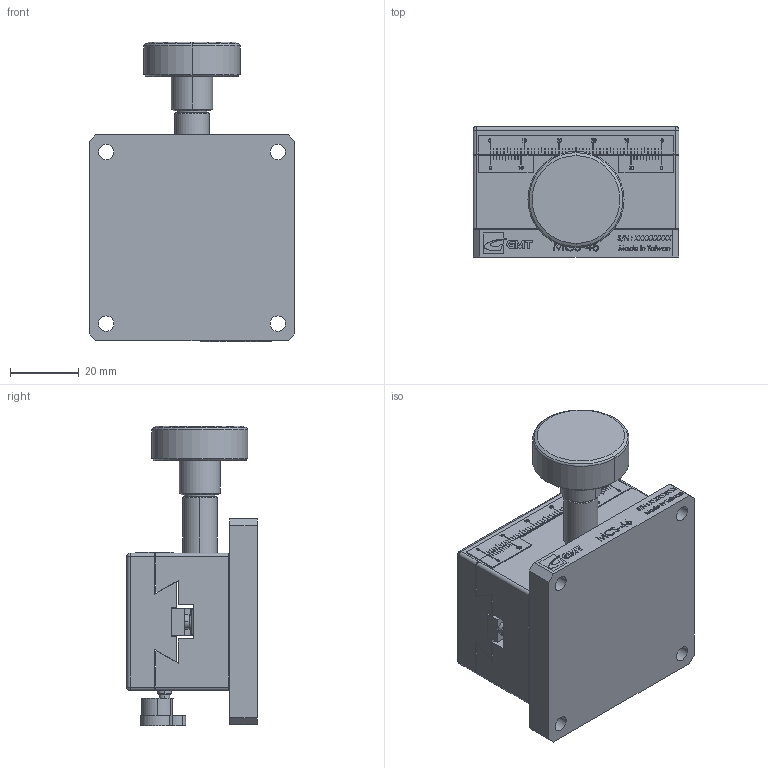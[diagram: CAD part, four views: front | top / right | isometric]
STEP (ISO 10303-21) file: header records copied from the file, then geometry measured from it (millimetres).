
FILE_DESCRIPTION (( 'STEP AP203' ), '1' );
FILE_NAME ('MCS-46(«¬¿ý).STEP', '2013-09-30T06:23:17', ( '' ), ( '' ), 'SwSTEP 2.0', 'SolidWorks 2013', '' );
FILE_SCHEMA (( 'CONFIG_CONTROL_DESIGN' ));
Products named in the file (3): Group2^MCS-46(型錄); MCS-46(型錄); Group1^MCS-46(型錄)
Assembly tree (2 placements, depth 2):
  MCS-46(型錄)
    Group1^MCS-46(型錄)
    Group2^MCS-46(型錄)
Bounding box: 60 x 38 x 87.3 mm (x, y, z)
Volume: 106330.4 mm3; surface area: 28664.6 mm2
Topology: 2 solids, 2 shells, 1242 faces, 3367 edges, 2210 vertices
Faces by surface type: plane 841, bspline 219, cylinder 124, cone 44, sphere 8, torus 6
Entity records: 52604 total; most frequent: CARTESIAN_POINT 22245, ORIENTED_EDGE 6718, DIRECTION 5321, EDGE_CURVE 3359, VECTOR 2517, LINE 2517, VERTEX_POINT 2210, AXIS2_PLACEMENT_3D 1402
